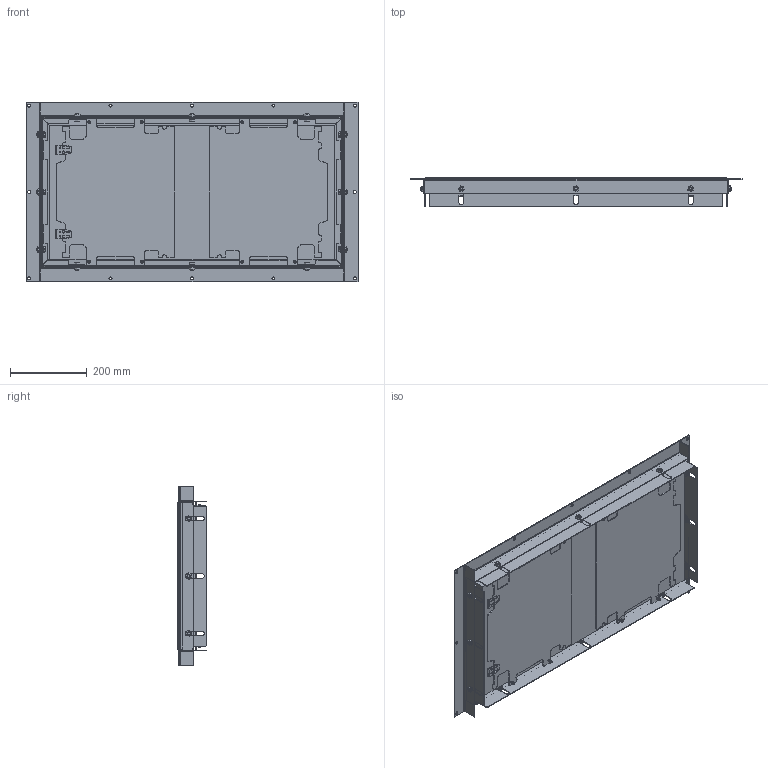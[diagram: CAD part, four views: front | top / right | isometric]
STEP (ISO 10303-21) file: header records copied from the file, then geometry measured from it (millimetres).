
FILE_DESCRIPTION (( 'STEP AP214' ), '1' );
FILE_NAME ('MS-I-20-GKF_120720_120728.STEP', '2019-02-12T08:09:28', ( '' ), ( '' ), 'SwSTEP 2.0', 'SolidWorks 2018', '' );
FILE_SCHEMA (( 'AUTOMOTIVE_DESIGN' ));
Length unit declared in the file: millimetre
Products named in the file (1): MS-I-20-GKF_120720_120728
Bounding box: 868 x 74.4 x 468 mm (x, y, z)
Volume: 13596501.3 mm3; surface area: 1555166.5 mm2
Topology: 1 solids, 1 shells, 2048 faces, 5249 edges, 3214 vertices
Faces by surface type: cylinder 839, plane 817, bspline 184, torus 112, cone 96
Entity records: 75201 total; most frequent: CARTESIAN_POINT 26239, ORIENTED_EDGE 10306, DIRECTION 9945, EDGE_CURVE 5153, AXIS2_PLACEMENT_3D 3723, VERTEX_POINT 3214, VECTOR 2499, LINE 2499
